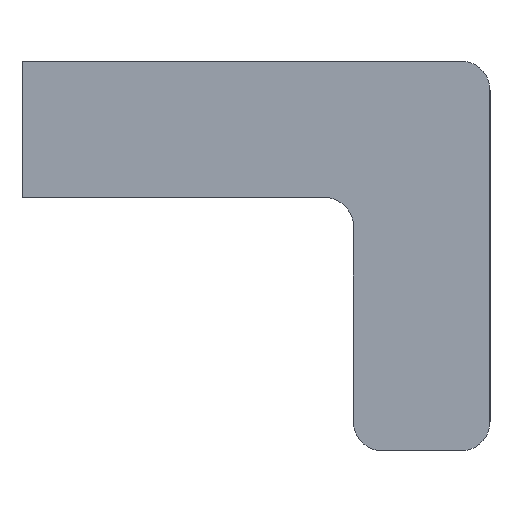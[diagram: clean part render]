
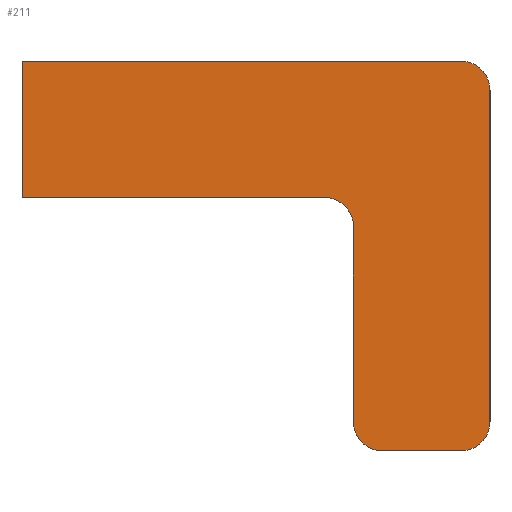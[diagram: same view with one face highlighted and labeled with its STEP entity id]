
A CAD part, left-side view. The second image highlights one B-rep face of the part: STEP entity #211.
In plain terms, the highlighted planar face has unit normal (-1, 0, 0).
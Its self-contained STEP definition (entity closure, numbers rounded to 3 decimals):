
#131 = VERTEX_POINT( '', #330 );
#139 = VERTEX_POINT( '', #338 );
#143 = VERTEX_POINT( '', #342 );
#149 = EDGE_CURVE( '', #277, #131, #349, .T. );
#151 = EDGE_CURVE( '', #183, #253, #351, .T. );
#157 = EDGE_CURVE( '', #139, #183, #357, .T. );
#165 = VERTEX_POINT( '', #365 );
#183 = VERTEX_POINT( '', #384 );
#185 = EDGE_CURVE( '', #131, #139, #386, .T. );
#197 = VERTEX_POINT( '', #400 );
#205 = VERTEX_POINT( '', #408 );
#211 = ADVANCED_FACE( '', ( #416 ), #417, .F. );
#213 = EDGE_CURVE( '', #165, #143, #419, .T. );
#231 = EDGE_CURVE( '', #253, #233, #440, .T. );
#233 = VERTEX_POINT( '', #442 );
#235 = EDGE_CURVE( '', #205, #197, #444, .T. );
#237 = EDGE_CURVE( '', #197, #277, #446, .T. );
#253 = VERTEX_POINT( '', #465 );
#259 = EDGE_CURVE( '', #143, #205, #471, .T. );
#265 = EDGE_CURVE( '', #233, #165, #477, .T. );
#277 = VERTEX_POINT( '', #490 );
#330 = CARTESIAN_POINT( '', ( -6., -17., -15. ) );
#338 = CARTESIAN_POINT( '', ( -6., -17., -5. ) );
#342 = CARTESIAN_POINT( '', ( -6., -24., 2. ) );
#349 = CIRCLE( '', #565, 1.5 );
#351 = LINE( '', #568, #569 );
#357 = CIRCLE( '', #579, 1.5 );
#365 = CARTESIAN_POINT( '', ( -6., -22.5, 3.5 ) );
#384 = CARTESIAN_POINT( '', ( -6., -15.5, -3.5 ) );
#386 = LINE( '', #615, #616 );
#400 = CARTESIAN_POINT( '', ( -6., -22.5, -16.5 ) );
#408 = CARTESIAN_POINT( '', ( -6., -24., -15. ) );
#416 = FACE_OUTER_BOUND( '', #653, .T. );
#417 = PLANE( '', #654 );
#419 = CIRCLE( '', #657, 1.5 );
#440 = LINE( '', #684, #685 );
#442 = CARTESIAN_POINT( '', ( -6., 0., 3.5 ) );
#444 = CIRCLE( '', #690, 1.5 );
#446 = LINE( '', #693, #694 );
#465 = CARTESIAN_POINT( '', ( -6., 0., -3.5 ) );
#471 = LINE( '', #729, #730 );
#477 = LINE( '', #739, #740 );
#490 = CARTESIAN_POINT( '', ( -6., -18.5, -16.5 ) );
#565 = AXIS2_PLACEMENT_3D( '', #823, #824, #825 );
#568 = CARTESIAN_POINT( '', ( -6., -15.5, -3.5 ) );
#569 = VECTOR( '', #826, 1. );
#579 = AXIS2_PLACEMENT_3D( '', #831, #832, #833 );
#615 = CARTESIAN_POINT( '', ( -6., -17., -15. ) );
#616 = VECTOR( '', #847, 1. );
#653 = EDGE_LOOP( '', ( #892, #893, #894, #895, #896, #897, #898, #899, #900, #901 ) );
#654 = AXIS2_PLACEMENT_3D( '', #902, #903, #904 );
#657 = AXIS2_PLACEMENT_3D( '', #905, #906, #907 );
#684 = CARTESIAN_POINT( '', ( -6., 0., -3.5 ) );
#685 = VECTOR( '', #943, 1. );
#690 = AXIS2_PLACEMENT_3D( '', #944, #945, #946 );
#693 = CARTESIAN_POINT( '', ( -6., -22.5, -16.5 ) );
#694 = VECTOR( '', #947, 1. );
#729 = CARTESIAN_POINT( '', ( -6., -24., 2. ) );
#730 = VECTOR( '', #979, 1. );
#739 = CARTESIAN_POINT( '', ( -6., 0., 3.5 ) );
#740 = VECTOR( '', #981, 1. );
#823 = CARTESIAN_POINT( '', ( -6., -18.5, -15. ) );
#824 = DIRECTION( '', ( 1., 0., 0. ) );
#825 = DIRECTION( '', ( 0., 0., -1. ) );
#826 = DIRECTION( '', ( 0., 1., 0. ) );
#831 = CARTESIAN_POINT( '', ( -6., -15.5, -5. ) );
#832 = DIRECTION( '', ( -1., 0., 0. ) );
#833 = DIRECTION( '', ( 0., -1., 0. ) );
#847 = DIRECTION( '', ( 0., 0., 1. ) );
#892 = ORIENTED_EDGE( '', *, *, #213, .F. );
#893 = ORIENTED_EDGE( '', *, *, #265, .F. );
#894 = ORIENTED_EDGE( '', *, *, #231, .F. );
#895 = ORIENTED_EDGE( '', *, *, #151, .F. );
#896 = ORIENTED_EDGE( '', *, *, #157, .F. );
#897 = ORIENTED_EDGE( '', *, *, #185, .F. );
#898 = ORIENTED_EDGE( '', *, *, #149, .F. );
#899 = ORIENTED_EDGE( '', *, *, #237, .F. );
#900 = ORIENTED_EDGE( '', *, *, #235, .F. );
#901 = ORIENTED_EDGE( '', *, *, #259, .F. );
#902 = CARTESIAN_POINT( '', ( -6., 0., 0. ) );
#903 = DIRECTION( '', ( 1., 0., 0. ) );
#904 = DIRECTION( '', ( 0., 0., -1. ) );
#905 = CARTESIAN_POINT( '', ( -6., -22.5, 2. ) );
#906 = DIRECTION( '', ( 1., 0., 0. ) );
#907 = DIRECTION( '', ( 0., 0., 1. ) );
#943 = DIRECTION( '', ( 0., 0., 1. ) );
#944 = CARTESIAN_POINT( '', ( -6., -22.5, -15. ) );
#945 = DIRECTION( '', ( 1., 0., 0. ) );
#946 = DIRECTION( '', ( 0., -1., 0. ) );
#947 = DIRECTION( '', ( 0., 1., 0. ) );
#979 = DIRECTION( '', ( 0., 0., -1. ) );
#981 = DIRECTION( '', ( 0., -1., 0. ) );
